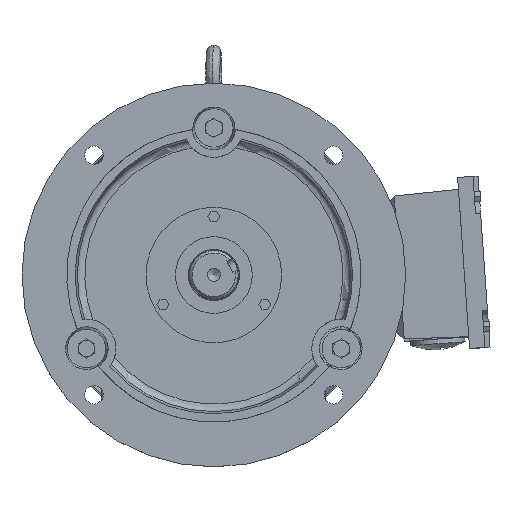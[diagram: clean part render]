
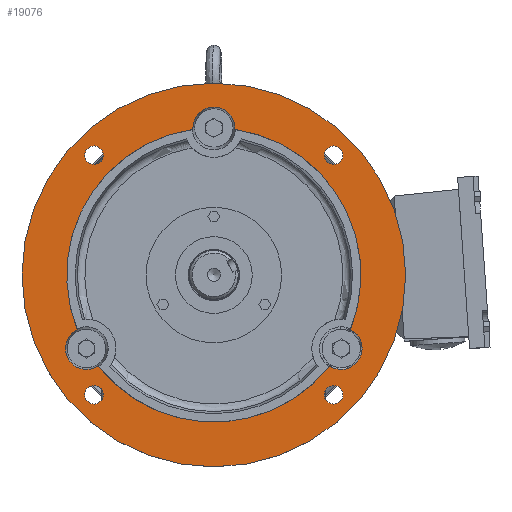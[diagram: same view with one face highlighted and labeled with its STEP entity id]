
A CAD part, top view. The second image highlights one B-rep face of the part: STEP entity #19076.
In plain terms, the highlighted planar face has unit normal (0, 0, 1) as drawn and (-1, 0, 0) by its records, which use the part's own axes.
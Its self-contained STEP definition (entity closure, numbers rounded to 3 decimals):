
#235=FACE_BOUND('',#3246,.T.);
#236=FACE_BOUND('',#3247,.T.);
#237=FACE_BOUND('',#3248,.T.);
#238=FACE_BOUND('',#3249,.T.);
#239=FACE_BOUND('',#3250,.T.);
#918=PLANE('',#20451);
#2056=FACE_OUTER_BOUND('',#3245,.T.);
#3245=EDGE_LOOP('',(#14819));
#3246=EDGE_LOOP('',(#14820));
#3247=EDGE_LOOP('',(#14821));
#3248=EDGE_LOOP('',(#14822));
#3249=EDGE_LOOP('',(#14823));
#3250=EDGE_LOOP('',(#14824,#14825,#14826,#14827,#14828,#14829,#14830,#14831,
#14832));
#8297=CIRCLE('',#20311,16.36);
#8301=CIRCLE('',#20315,16.36);
#8303=CIRCLE('',#20318,16.36);
#8307=CIRCLE('',#20322,16.36);
#8311=CIRCLE('',#20328,16.36);
#8315=CIRCLE('',#20332,16.36);
#8319=CIRCLE('',#20338,7.25);
#8321=CIRCLE('',#20341,7.25);
#8323=CIRCLE('',#20344,7.25);
#8325=CIRCLE('',#20347,7.25);
#8332=CIRCLE('',#20358,115.);
#8334=CIRCLE('',#20361,150.);
#8352=CIRCLE('',#20388,115.);
#8354=CIRCLE('',#20391,115.);
#9015=VERTEX_POINT('',#43930);
#9016=VERTEX_POINT('',#43932);
#9019=VERTEX_POINT('',#43938);
#9021=VERTEX_POINT('',#43944);
#9022=VERTEX_POINT('',#43946);
#9025=VERTEX_POINT('',#43952);
#9033=VERTEX_POINT('',#44003);
#9034=VERTEX_POINT('',#44005);
#9037=VERTEX_POINT('',#44011);
#9043=VERTEX_POINT('',#44026);
#9045=VERTEX_POINT('',#44032);
#9047=VERTEX_POINT('',#44038);
#9049=VERTEX_POINT('',#44044);
#9056=VERTEX_POINT('',#44069);
#11077=EDGE_CURVE('',#9016,#9015,#8297,.T.);
#11081=EDGE_CURVE('',#9015,#9019,#8301,.T.);
#11084=EDGE_CURVE('',#9022,#9021,#8303,.T.);
#11088=EDGE_CURVE('',#9021,#9025,#8307,.T.);
#11097=EDGE_CURVE('',#9034,#9033,#8311,.T.);
#11101=EDGE_CURVE('',#9033,#9037,#8315,.T.);
#11108=EDGE_CURVE('',#9043,#9043,#8319,.T.);
#11111=EDGE_CURVE('',#9045,#9045,#8321,.T.);
#11114=EDGE_CURVE('',#9047,#9047,#8323,.T.);
#11117=EDGE_CURVE('',#9049,#9049,#8325,.T.);
#11127=EDGE_CURVE('',#9016,#9037,#8332,.T.);
#11129=EDGE_CURVE('',#9056,#9056,#8334,.T.);
#11158=EDGE_CURVE('',#9022,#9019,#8352,.T.);
#11160=EDGE_CURVE('',#9034,#9025,#8354,.T.);
#14819=ORIENTED_EDGE('',*,*,#11129,.T.);
#14820=ORIENTED_EDGE('',*,*,#11108,.F.);
#14821=ORIENTED_EDGE('',*,*,#11111,.F.);
#14822=ORIENTED_EDGE('',*,*,#11114,.F.);
#14823=ORIENTED_EDGE('',*,*,#11117,.F.);
#14824=ORIENTED_EDGE('',*,*,#11127,.F.);
#14825=ORIENTED_EDGE('',*,*,#11077,.T.);
#14826=ORIENTED_EDGE('',*,*,#11081,.T.);
#14827=ORIENTED_EDGE('',*,*,#11158,.F.);
#14828=ORIENTED_EDGE('',*,*,#11084,.T.);
#14829=ORIENTED_EDGE('',*,*,#11088,.T.);
#14830=ORIENTED_EDGE('',*,*,#11160,.F.);
#14831=ORIENTED_EDGE('',*,*,#11097,.T.);
#14832=ORIENTED_EDGE('',*,*,#11101,.T.);
#19076=ADVANCED_FACE('',(#2056,#235,#236,#237,#238,#239),#918,.F.);
#20311=AXIS2_PLACEMENT_3D('',#43933,#22344,#22345);
#20315=AXIS2_PLACEMENT_3D('',#43940,#22352,#22353);
#20318=AXIS2_PLACEMENT_3D('',#43947,#22359,#22360);
#20322=AXIS2_PLACEMENT_3D('',#43954,#22367,#22368);
#20328=AXIS2_PLACEMENT_3D('',#44006,#22380,#22381);
#20332=AXIS2_PLACEMENT_3D('',#44013,#22388,#22389);
#20338=AXIS2_PLACEMENT_3D('',#44028,#22403,#22404);
#20341=AXIS2_PLACEMENT_3D('',#44034,#22410,#22411);
#20344=AXIS2_PLACEMENT_3D('',#44040,#22417,#22418);
#20347=AXIS2_PLACEMENT_3D('',#44046,#22424,#22425);
#20358=AXIS2_PLACEMENT_3D('',#44066,#22449,#22450);
#20361=AXIS2_PLACEMENT_3D('',#44070,#22455,#22456);
#20388=AXIS2_PLACEMENT_3D('',#44161,#22516,#22517);
#20391=AXIS2_PLACEMENT_3D('',#44164,#22522,#22523);
#20451=AXIS2_PLACEMENT_3D('',#44396,#22704,#22705);
#22344=DIRECTION('center_axis',(1.,0.,0.));
#22345=DIRECTION('ref_axis',(0.,0.,-1.));
#22352=DIRECTION('center_axis',(1.,0.,0.));
#22353=DIRECTION('ref_axis',(0.,0.,-1.));
#22359=DIRECTION('center_axis',(1.,0.,0.));
#22360=DIRECTION('ref_axis',(0.,0.,-1.));
#22367=DIRECTION('center_axis',(1.,0.,0.));
#22368=DIRECTION('ref_axis',(0.,0.,-1.));
#22380=DIRECTION('center_axis',(1.,0.,0.));
#22381=DIRECTION('ref_axis',(0.,0.,-1.));
#22388=DIRECTION('center_axis',(1.,0.,0.));
#22389=DIRECTION('ref_axis',(0.,0.,-1.));
#22403=DIRECTION('center_axis',(-1.,0.,0.));
#22404=DIRECTION('ref_axis',(0.,0.,1.));
#22410=DIRECTION('center_axis',(-1.,0.,0.));
#22411=DIRECTION('ref_axis',(0.,0.,1.));
#22417=DIRECTION('center_axis',(-1.,0.,0.));
#22418=DIRECTION('ref_axis',(0.,0.,1.));
#22424=DIRECTION('center_axis',(-1.,0.,0.));
#22425=DIRECTION('ref_axis',(0.,0.,1.));
#22449=DIRECTION('center_axis',(-1.,0.,0.));
#22450=DIRECTION('ref_axis',(0.,0.,1.));
#22455=DIRECTION('center_axis',(-1.,0.,0.));
#22456=DIRECTION('ref_axis',(0.,0.,1.));
#22516=DIRECTION('center_axis',(-1.,0.,0.));
#22517=DIRECTION('ref_axis',(0.,0.,1.));
#22522=DIRECTION('center_axis',(-1.,0.,0.));
#22523=DIRECTION('ref_axis',(0.,0.,1.));
#22704=DIRECTION('center_axis',(1.,0.,0.));
#22705=DIRECTION('ref_axis',(0.,0.,-1.));
#43930=CARTESIAN_POINT('',(-8.,-43.332,107.773));
#43932=CARTESIAN_POINT('',(-8.,-42.786,106.744));
#43933=CARTESIAN_POINT('Origin',(-8.,-57.5,99.593));
#43938=CARTESIAN_POINT('',(-8.,-71.05,90.426));
#43940=CARTESIAN_POINT('Origin',(-8.,-57.5,99.593));
#43944=CARTESIAN_POINT('',(-8.,-71.668,-91.413));
#43946=CARTESIAN_POINT('',(-8.,-71.05,-90.426));
#43947=CARTESIAN_POINT('Origin',(-8.,-57.5,-99.593));
#43952=CARTESIAN_POINT('',(-8.,-42.786,-106.744));
#43954=CARTESIAN_POINT('Origin',(-8.,-57.5,-99.593));
#44003=CARTESIAN_POINT('',(-8.,115.,-16.36));
#44005=CARTESIAN_POINT('',(-8.,113.836,-16.319));
#44006=CARTESIAN_POINT('Origin',(-8.,115.,0.));
#44011=CARTESIAN_POINT('',(-8.,113.836,16.319));
#44013=CARTESIAN_POINT('Origin',(-8.,115.,0.));
#44026=CARTESIAN_POINT('',(-8.,93.692,-100.942));
#44028=CARTESIAN_POINT('Origin',(-8.,93.692,-93.692));
#44032=CARTESIAN_POINT('',(-8.,-93.692,-100.942));
#44034=CARTESIAN_POINT('Origin',(-8.,-93.692,-93.692));
#44038=CARTESIAN_POINT('',(-8.,-93.692,86.442));
#44040=CARTESIAN_POINT('Origin',(-8.,-93.692,93.692));
#44044=CARTESIAN_POINT('',(-8.,93.692,86.442));
#44046=CARTESIAN_POINT('Origin',(-8.,93.692,93.692));
#44066=CARTESIAN_POINT('Origin',(-8.,0.,0.));
#44069=CARTESIAN_POINT('',(-8.,0.,-150.));
#44070=CARTESIAN_POINT('Origin',(-8.,0.,0.));
#44161=CARTESIAN_POINT('Origin',(-8.,0.,0.));
#44164=CARTESIAN_POINT('Origin',(-8.,0.,0.));
#44396=CARTESIAN_POINT('Origin',(-8.,115.,0.));
